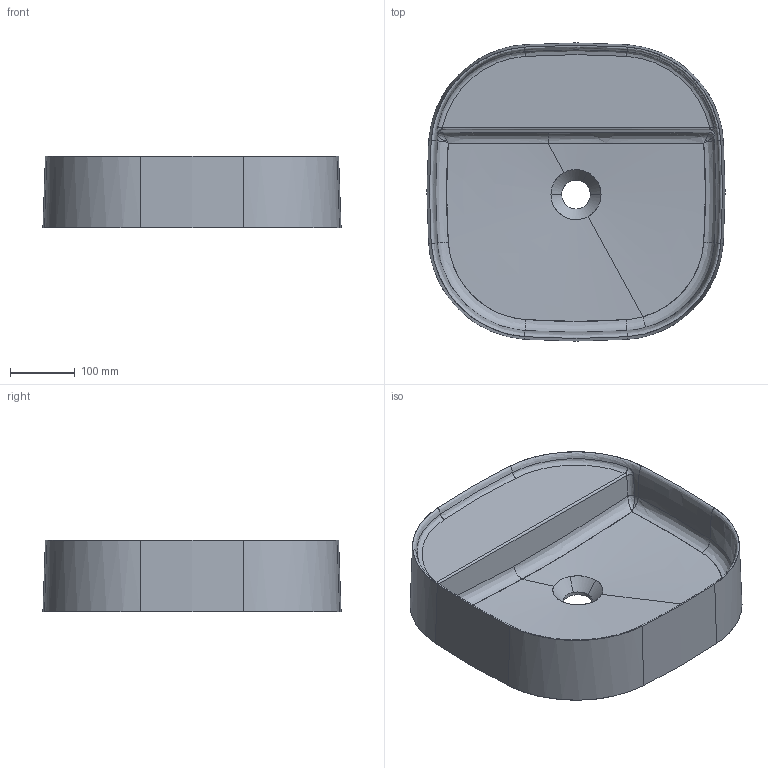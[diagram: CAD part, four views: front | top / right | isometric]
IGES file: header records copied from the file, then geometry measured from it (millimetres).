
Start section: START RECORD GO HERE.
Global section: file name: ART 7403 45x45.igs; native system: DASSAULT SYSTEMES CATIA V5 R19 - www.3ds.com; preprocessor: CATIA Version 5 Release 19 SP 5 ; author: Luca; organization: DESKTOP-V7SON24; date: 20171016.205444; units: millimetre
Bounding box: 459.68 x 459.68 x 110 mm (x, y, z)
Surface area: 693242.2 mm2 (no closed solid volume)
Topology: 0 solids, 0 shells, 131 faces, 606 edges, 606 vertices
Faces by surface type: bspline 110, revolution 16, plane 5
